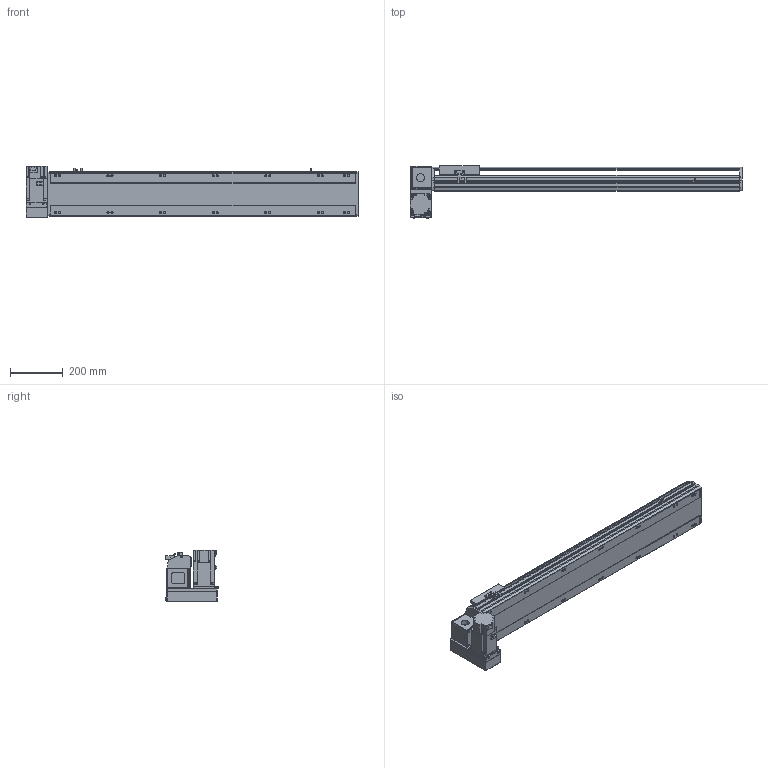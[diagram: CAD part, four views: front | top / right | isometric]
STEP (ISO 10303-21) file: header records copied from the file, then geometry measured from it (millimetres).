
FILE_DESCRIPTION( ( 'STEP AP214' ), '1' );
FILE_NAME( 'x:/temp/worker_3/temp/exporttempdir_5412_11_rbcvA/format_0/PBS170-P40-S900-LD-T75-C1-N(0).stp', '2022-06-07T07:51:15', ( 'License CC BY-ND 4.0' ), ( 'CADENAS' ), ' ', 'PARTsolutions', ' ' );
FILE_SCHEMA( ( 'AUTOMOTIVE_DESIGN { 1 0 10303 214 1 1 1 1 }' ) );
Length unit declared in the file: millimetre
Products named in the file (7): PBS170-P40-S900-LD-T75-C1-N(0); _PBS170-S900()_body; _PBS170T-LD_motors; _T75-p1; _PBS170_sliser; _PBS170_plant; _PBS170_sensor
Assembly tree (8 placements, depth 2):
  PBS170-P40-S900-LD-T75-C1-N(0)
    _PBS170-S900()_body
    _PBS170T-LD_motors
    _T75-p1
    _PBS170_sliser
    _PBS170_plant
    _PBS170_sensor  x3
Bounding box: 1263 x 201 x 197.3 mm (x, y, z)
Volume: 10276813.7 mm3; surface area: 1354627.6 mm2
Topology: 8 solids, 8 shells, 1066 faces, 2835 edges, 1848 vertices
Faces by surface type: plane 681, cylinder 331, cone 44, sphere 8, torus 2
Full cylindrical faces by diameter (mm): 3.242 x4, 4 x2, 4.4 x4, 4.5 x6, 4.917 x4, 6 x9, 6.647 x22, 7 x2, 7.5 x4, 8 x8, 8.5 x14, 10 x4, 10.5 x14, 11 x2, 30 x2, 40 x1, 70 x1
Entity records: 39098 total; most frequent: CARTESIAN_POINT 6053, DIRECTION 5230, ORIENTED_EDGE 4968, EDGE_CURVE 2484, AXIS2_PLACEMENT_3D 1807, VERTEX_POINT 1706, LINE 1616, VECTOR 1616
